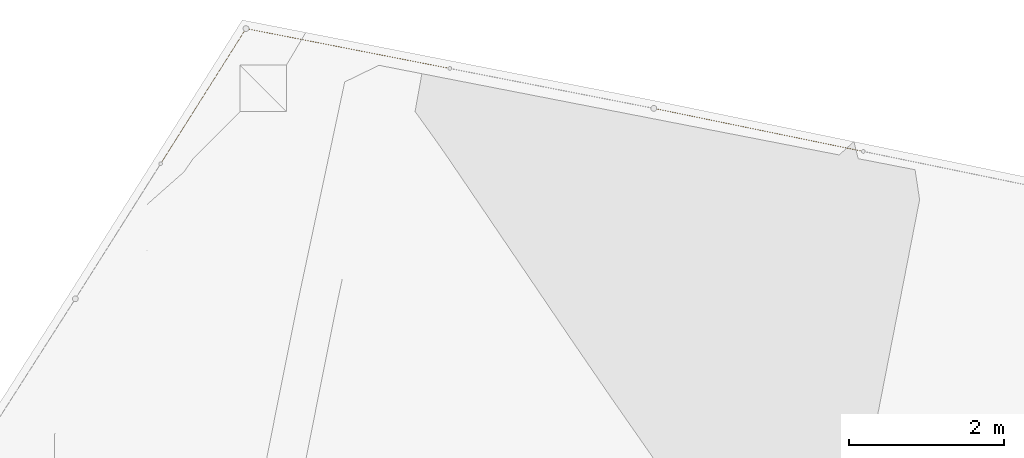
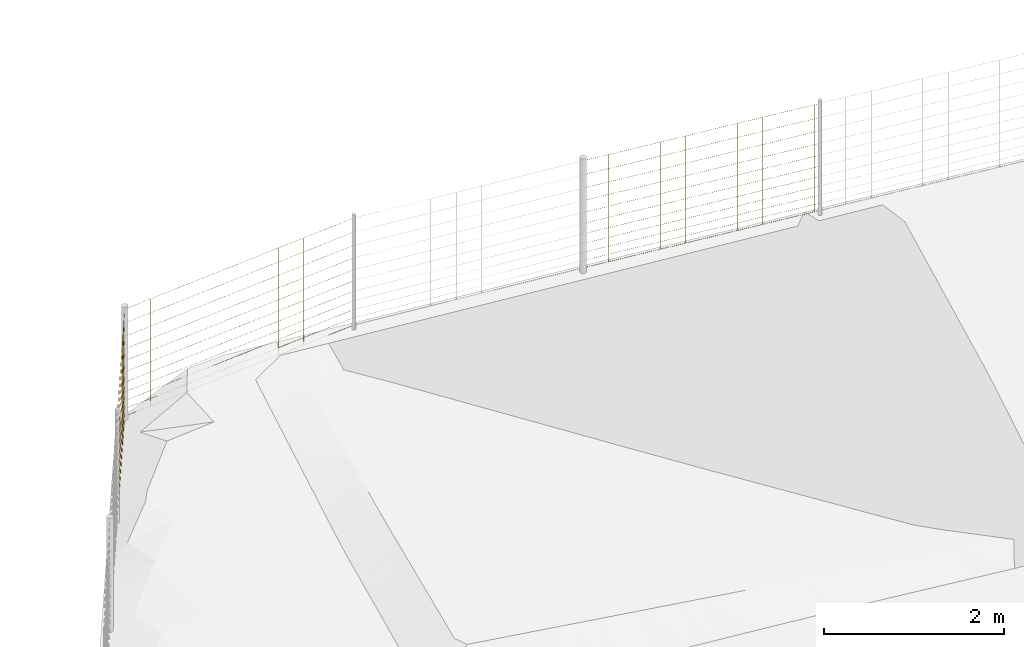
# Not in any storey, part 32 of 72: 3 railings.
"""IFC4 model written with IfcOpenShell, lengths in metres."""

import ifcopenshell
import ifcopenshell.guid

model = None  # the IFC model being written
_history = None  # IfcOwnerHistory: only IFC2X3 demands one
_inside = {}  # id of a spatial element -> (the spatial element, [elements in it])
_under = {}  # id of a project, library or spatial element -> (it, [spatial elements below it])
_declared = {}  # id of a project -> (the project, [libraries it declares])
_typed = {}  # id of a type object -> (the type object, [elements of that type])
_made_of = {}  # id of a material, layer set ... -> (it, [elements and type objects made of it])


def new_model(schema):
    """Start an empty IFC model of exactly this schema.

    Asked for "IFC4X3", IfcOpenShell would pick the latest addendum, in which some entities
    have other attributes; the version numbers below select the first issue.
    IFC2X3 requires an IfcOwnerHistory on every rooted entity: one is made here for all.
    """
    global model, _history
    if schema == "IFC4X3":
        model = ifcopenshell.file(schema_version=(4, 3, 0, 0))
    else:
        model = ifcopenshell.file(schema=schema)
    _inside.clear()
    _under.clear()
    _declared.clear()
    _typed.clear()
    _made_of.clear()
    _history = None
    if model.schema == "IFC2X3":
        org = make("IfcOrganization", Name="unknown")
        user = make(
            "IfcPersonAndOrganization",
            ThePerson=make("IfcPerson", FamilyName="unknown"),
            TheOrganization=org,
        )
        app = make(
            "IfcApplication",
            ApplicationDeveloper=org,
            Version="unknown",
            ApplicationFullName="unknown",
            ApplicationIdentifier="unknown",
        )
        _history = make(
            "IfcOwnerHistory",
            OwningUser=user,
            OwningApplication=app,
            ChangeAction="ADDED",
            CreationDate=0,
        )
    return model


def make(cls, **values):
    """One entity of the class cls with the attributes given. An attribute that is None is left unset."""
    return model.create_entity(
        cls, **{name: value for name, value in values.items() if value is not None}
    )


def rooted(cls, **values):
    """An entity with a GlobalId (a new one), such as an element, a storey or a relation."""
    return make(cls, GlobalId=ifcopenshell.guid.new(), OwnerHistory=_history, **values)


def si_unit(unit_type, name, prefix=None):
    """IfcSIUnit, for example si_unit("LENGTHUNIT", "METRE", prefix="MILLI")."""
    return make("IfcSIUnit", UnitType=unit_type, Prefix=prefix, Name=name)


def assignment(units):
    """IfcUnitAssignment: the units of a project."""
    return None if units is None else make("IfcUnitAssignment", Units=units)


def point(xyz):
    """IfcCartesianPoint."""
    return None if xyz is None else make("IfcCartesianPoint", Coordinates=xyz)


def direction(xyz):
    """IfcDirection."""
    return None if xyz is None else make("IfcDirection", DirectionRatios=xyz)


def frame(location, z_axis=None, x_axis=None):
    """IfcAxis2Placement3D, a coordinate frame: its origin and axes. An axis left out is left unset."""
    return make(
        "IfcAxis2Placement3D",
        Location=point(location),
        Axis=direction(z_axis),
        RefDirection=direction(x_axis),
    )


def origin_with_axes():
    """The frame at (0, 0, 0) with the z axis (0, 0, 1) and the x axis (1, 0, 0) written out."""
    return frame((0.0, 0.0, 0.0), z_axis=(0.0, 0.0, 1.0), x_axis=(1.0, 0.0, 0.0))


def place(relative_to, where):
    """IfcLocalPlacement: puts the frame where relative to a parent placement (None: the world)."""
    return make(
        "IfcLocalPlacement", PlacementRelTo=relative_to, RelativePlacement=where
    )


def context(
    kind, dimensions, precision=None, world=None, true_north=None, identifier=None
):
    """IfcGeometricRepresentationContext, for example the 3D "Model" context."""
    return make(
        "IfcGeometricRepresentationContext",
        ContextIdentifier=identifier,
        ContextType=kind,
        CoordinateSpaceDimension=dimensions,
        Precision=precision,
        WorldCoordinateSystem=world,
        TrueNorth=true_north,
    )


def subcontext(parent, identifier, kind, view, scale=None):
    """IfcGeometricRepresentationSubContext, for example "Body" below "Model"."""
    return make(
        "IfcGeometricRepresentationSubContext",
        ContextIdentifier=identifier,
        ContextType=kind,
        ParentContext=parent,
        TargetScale=scale,
        TargetView=view,
    )


def project(units=None, contexts=None):
    """IfcProject with its units and contexts."""
    return rooted(
        "IfcProject",
        Name="project",
        RepresentationContexts=contexts,
        UnitsInContext=assignment(units),
    )


def spatial(cls, under=None, at=None, **own):
    """A site, building, storey or space (cls), placed at a placement, below another one or the project."""
    s = rooted(cls, ObjectPlacement=at, **own)
    if under is not None:
        _under.setdefault(under.id(), (under, []))[1].append(s)
    return s


def point_list(points):
    """IfcCartesianPointList2D or 3D."""
    cls = (
        "IfcCartesianPointList2D" if len(points[0]) == 2 else "IfcCartesianPointList3D"
    )
    return make(cls, CoordList=points)


def polygons(points, faces, closed=None, point_numbers=None):
    """IfcPolygonalFaceSet: a face is its outer loop, then its inner loops; points numbered from 1."""
    made = []
    for loops in faces:
        if len(loops) == 1:
            made.append(make("IfcIndexedPolygonalFace", CoordIndex=loops[0]))
        else:
            made.append(
                make(
                    "IfcIndexedPolygonalFaceWithVoids",
                    CoordIndex=loops[0],
                    InnerCoordIndices=loops[1:],
                )
            )
    return make(
        "IfcPolygonalFaceSet",
        Coordinates=point_list(points),
        Closed=closed,
        Faces=made,
        PnIndex=point_numbers,
    )


def shape(context_of_items, identifier, shape_type, items):
    """IfcShapeRepresentation: the items that make up one representation, for example the "Body"."""
    return make(
        "IfcShapeRepresentation",
        ContextOfItems=context_of_items,
        RepresentationIdentifier=identifier,
        RepresentationType=shape_type,
        Items=items,
    )


def material(Name=None, Category=None):
    """IfcMaterial."""
    return make("IfcMaterial", Name=Name, Category=Category)


def made_of(thing, what):
    """Note that an element or type object is made of a material, layer set ...; save() writes the relation."""
    if what is not None:
        _made_of.setdefault(what.id(), (what, []))[1].append(thing)
    return thing


def element(
    cls,
    number,
    at=None,
    inside=None,
    cuts=None,
    type_object=None,
    material=None,
    context=None,
    identifier="Body",
    shape_type=None,
    held_by="IfcProductDefinitionShape",
    body=None,
    shapes=None,
    **own,
):
    """One element of the class cls, such as IfcWall. Its Tag is "e" and its number.

    at: its placement. inside: the storey or other place that contains it. cuts: it is an
    opening in that element (IfcRelVoidsElement). A single representation is given by context,
    identifier, shape_type and body (its items); several are given by shapes. held_by: the class
    of the entity that holds the representations. save() writes the other relations.
    """
    e = rooted(cls, Tag="e%d" % number, ObjectPlacement=at, **own)
    if body is not None:
        shapes = [shape(context, identifier, shape_type, body)]
    if shapes is not None:
        e.Representation = make(held_by, Representations=shapes)
    if inside is not None:
        _inside.setdefault(inside.id(), (inside, []))[1].append(e)
    if cuts is not None:
        rooted(
            "IfcRelVoidsElement", RelatingBuildingElement=cuts, RelatedOpeningElement=e
        )
    if type_object is not None:
        _typed.setdefault(type_object.id(), (type_object, []))[1].append(e)
    return made_of(e, material)


def aggregate(whole, parts):
    """IfcRelAggregates: a whole, such as a stair, and the parts it consists of."""
    return rooted("IfcRelAggregates", RelatingObject=whole, RelatedObjects=parts)


def save(model, path):
    """Write the relations noted so far, then the file.

    IfcRelAggregates (storeys below a building ...), IfcRelContainedInSpatialStructure (elements
    in a storey), IfcRelDefinesByType, IfcRelAssociatesMaterial and IfcRelDeclares: one each for
    every whole, place, type object, material and project.
    """
    for whole, parts in _under.values():
        aggregate(whole, parts)
    for where, things in _inside.values():
        rooted(
            "IfcRelContainedInSpatialStructure",
            RelatedElements=things,
            RelatingStructure=where,
        )
    for kind, things in _typed.values():
        rooted("IfcRelDefinesByType", RelatedObjects=things, RelatingType=kind)
    for what, things in _made_of.values():
        rooted("IfcRelAssociatesMaterial", RelatedObjects=things, RelatingMaterial=what)
    for by, libraries in _declared.values():
        rooted("IfcRelDeclares", RelatingContext=by, RelatedDefinitions=libraries)
    model.write(path)


model = new_model("IFC4")

# Units and contexts
model_context = context("Model", 3, precision=1e-05, world=origin_with_axes(), true_north=direction((0.0, 1.0)))
body_context = subcontext(model_context, "Body", "Model", "MODEL_VIEW")
ifc_project = project(units=[si_unit("AREAUNIT", "SQUARE_METRE"), si_unit("VOLUMEUNIT", "CUBIC_METRE"), si_unit("LENGTHUNIT", "METRE")], contexts=[model_context])

# Site
site_placement = place(None, origin_with_axes())
site = spatial("IfcSite", under=ifc_project, at=site_placement, Name="Lares · Rua das Mercês · artigo 4771")

# Railings
ifc_material = material(Name="Aço galvanizado / Stahl verzinkt", Category="steel")
railing_1_placement = place(site_placement, frame((0.0, 0.0, 0.0), z_axis=(0.0, 0.0, 1.0), x_axis=(1.0, -1.03767253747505e-17, 0.0)))
element("IfcRailing", 1, at=railing_1_placement, inside=site, material=ifc_material, Name="Vedação · rede ovelheira 1.050", ObjectType="SHEEP_WIRE_FENCE", PredefinedType="USERDEFINED", context=body_context, shape_type="Tessellation", body=[
    polygons([(-0.531027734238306, 22.7656995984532, 12.7352677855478), (-0.53231436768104, 22.7664714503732, 12.7337681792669), (-0.533564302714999, 22.767301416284, 12.7352677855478), (-0.532277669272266, 22.7665295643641, 12.7367673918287), (0.572765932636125, 24.5136188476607, 12.6878933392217), (0.571479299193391, 24.5143906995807, 12.6863937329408), (0.570229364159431, 24.5152206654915, 12.6878933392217), (0.571515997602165, 24.5144488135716, 12.6893929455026), (-0.531027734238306, 22.7656995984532, 12.8352677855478), (-0.53231436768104, 22.7664714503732, 12.8337681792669), (-0.533564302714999, 22.767301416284, 12.8352677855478), (-0.532277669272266, 22.7665295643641, 12.8367673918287), (0.572765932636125, 24.5136188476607, 12.7878933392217), (0.571479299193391, 24.5143906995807, 12.7863937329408), (0.570229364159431, 24.5152206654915, 12.7878933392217), (0.571515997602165, 24.5144488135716, 12.7893929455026), (-0.531027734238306, 22.7656995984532, 12.9452677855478), (-0.53231436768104, 22.7664714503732, 12.9437681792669), (-0.533564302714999, 22.767301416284, 12.9452677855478), (-0.532277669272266, 22.7665295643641, 12.9467673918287), (0.572765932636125, 24.5136188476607, 12.8978933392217), (0.571479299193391, 24.5143906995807, 12.8963937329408), (0.570229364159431, 24.5152206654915, 12.8978933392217), (0.571515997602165, 24.5144488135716, 12.8993929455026), (-0.531027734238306, 22.7656995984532, 13.0652677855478), (-0.53231436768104, 22.7664714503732, 13.0637681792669), (-0.533564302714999, 22.767301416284, 13.0652677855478), (-0.532277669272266, 22.7665295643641, 13.0667673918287), (0.572765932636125, 24.5136188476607, 13.0178933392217), (0.571479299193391, 24.5143906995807, 13.0163937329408), (0.570229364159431, 24.5152206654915, 13.0178933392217), (0.571515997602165, 24.5144488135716, 13.0193929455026), (-0.531027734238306, 22.7656995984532, 13.1952677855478), (-0.53231436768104, 22.7664714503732, 13.1937681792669), (-0.533564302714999, 22.767301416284, 13.1952677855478), (-0.532277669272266, 22.7665295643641, 13.1967673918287), (0.572765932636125, 24.5136188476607, 13.1478933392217), (0.571479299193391, 24.5143906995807, 13.1463937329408), (0.570229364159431, 24.5152206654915, 13.1478933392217), (0.571515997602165, 24.5144488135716, 13.1493929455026), (-0.531027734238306, 22.7656995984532, 13.3352677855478), (-0.53231436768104, 22.7664714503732, 13.3337681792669), (-0.533564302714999, 22.767301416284, 13.3352677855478), (-0.532277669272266, 22.7665295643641, 13.3367673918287), (0.572765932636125, 24.5136188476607, 13.2878933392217), (0.571479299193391, 24.5143906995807, 13.2863937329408), (0.570229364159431, 24.5152206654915, 13.2878933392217), (0.571515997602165, 24.5144488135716, 13.2893929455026), (-0.531027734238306, 22.7656995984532, 13.4852677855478), (-0.53231436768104, 22.7664714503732, 13.4837681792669), (-0.533564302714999, 22.767301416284, 13.4852677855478), (-0.532277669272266, 22.7665295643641, 13.4867673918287), (0.572765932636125, 24.5136188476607, 13.4378933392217), (0.571479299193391, 24.5143906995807, 13.4363937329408), (0.570229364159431, 24.5152206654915, 13.4378933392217), (0.571515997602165, 24.5144488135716, 13.4393929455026), (-0.531027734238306, 22.7656995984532, 13.6452677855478), (-0.53231436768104, 22.7664714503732, 13.6437681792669), (-0.533564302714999, 22.767301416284, 13.6452677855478), (-0.532277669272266, 22.7665295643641, 13.6467673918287), (0.572765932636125, 24.5136188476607, 13.5978933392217), (0.571479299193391, 24.5143906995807, 13.5963937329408), (0.570229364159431, 24.5152206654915, 13.5978933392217), (0.571515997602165, 24.5144488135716, 13.5993929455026), (-0.531027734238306, 22.7656995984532, 13.8152677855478), (-0.53231436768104, 22.7664714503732, 13.8137681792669), (-0.533564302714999, 22.767301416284, 13.8152677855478), (-0.532277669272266, 22.7665295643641, 13.8167673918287), (0.572765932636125, 24.5136188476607, 13.7678933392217), (0.571479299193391, 24.5143906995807, 13.7663937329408), (0.570229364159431, 24.5152206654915, 13.7678933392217), (0.571515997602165, 24.5144488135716, 13.7693929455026), (-0.531027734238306, 22.7656995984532, 13.9952677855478), (-0.53231436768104, 22.7664714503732, 13.9937681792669), (-0.533564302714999, 22.767301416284, 13.9952677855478), (-0.532277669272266, 22.7665295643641, 13.9967673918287), (0.572765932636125, 24.5136188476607, 13.9478933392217), (0.571479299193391, 24.5143906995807, 13.9463937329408), (0.570229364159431, 24.5152206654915, 13.9478933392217), (0.571515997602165, 24.5144488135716, 13.9493929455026), (-0.531027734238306, 22.7656995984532, 14.1852677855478), (-0.53231436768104, 22.7664714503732, 14.1837681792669), (-0.533564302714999, 22.767301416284, 14.1852677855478), (-0.532277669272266, 22.7665295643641, 14.1867673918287), (0.572765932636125, 24.5136188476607, 14.1378933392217), (0.571479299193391, 24.5143906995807, 14.1363937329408), (0.570229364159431, 24.5152206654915, 14.1378933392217), (0.571515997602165, 24.5144488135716, 14.1393929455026), (-0.372114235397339, 23.0216573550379, 12.7283928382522), (-0.373614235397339, 23.0201573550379, 12.7283928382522), (-0.372114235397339, 23.0186573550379, 12.7283928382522), (-0.370614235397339, 23.0201573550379, 12.7283928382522), (-0.372114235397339, 23.0216573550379, 14.1783928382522), (-0.373614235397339, 23.0201573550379, 14.1783928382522), (-0.372114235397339, 23.0186573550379, 14.1783928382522), (-0.370614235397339, 23.0201573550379, 14.1783928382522), (-0.211932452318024, 23.2753142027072, 12.7215178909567), (-0.213432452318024, 23.2738142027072, 12.7215178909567), (-0.211932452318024, 23.2723142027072, 12.7215178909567), (-0.210432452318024, 23.2738142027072, 12.7215178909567), (-0.211932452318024, 23.2753142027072, 14.1715178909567), (-0.213432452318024, 23.2738142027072, 14.1715178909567), (-0.211932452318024, 23.2723142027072, 14.1715178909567), (-0.210432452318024, 23.2738142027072, 14.1715178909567), (-0.0517506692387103, 23.5289710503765, 12.7146429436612), (-0.0532506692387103, 23.5274710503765, 12.7146429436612), (-0.0517506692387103, 23.5259710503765, 12.7146429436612), (-0.0502506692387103, 23.5274710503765, 12.7146429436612), (-0.0517506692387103, 23.5289710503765, 14.1646429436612), (-0.0532506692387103, 23.5274710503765, 14.1646429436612), (-0.0517506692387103, 23.5259710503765, 14.1646429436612), (-0.0502506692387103, 23.5274710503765, 14.1646429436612), (0.108431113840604, 23.7826278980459, 12.7077679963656), (0.106931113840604, 23.7811278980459, 12.7077679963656), (0.108431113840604, 23.7796278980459, 12.7077679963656), (0.109931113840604, 23.7811278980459, 12.7077679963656), (0.108431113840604, 23.7826278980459, 14.1577679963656), (0.106931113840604, 23.7811278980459, 14.1577679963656), (0.108431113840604, 23.7796278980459, 14.1577679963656), (0.109931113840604, 23.7811278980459, 14.1577679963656), (0.268612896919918, 24.0362847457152, 12.7008930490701), (0.267112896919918, 24.0347847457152, 12.7008930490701), (0.268612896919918, 24.0332847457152, 12.7008930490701), (0.270112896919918, 24.0347847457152, 12.7008930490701), (0.268612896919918, 24.0362847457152, 14.1508930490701), (0.267112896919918, 24.0347847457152, 14.1508930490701), (0.268612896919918, 24.0332847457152, 14.1508930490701), (0.270112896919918, 24.0347847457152, 14.1508930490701), (0.428794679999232, 24.2899415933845, 12.6940181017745), (0.427294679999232, 24.2884415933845, 12.6940181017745), (0.428794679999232, 24.2869415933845, 12.6940181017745), (0.430294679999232, 24.2884415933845, 12.6940181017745), (0.428794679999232, 24.2899415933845, 14.1440181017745), (0.427294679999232, 24.2884415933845, 14.1440181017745), (0.428794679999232, 24.2869415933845, 14.1440181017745), (0.430294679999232, 24.2884415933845, 14.1440181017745)], [[[4, 3, 2, 1]], [[5, 6, 7, 8]], [[1, 2, 6, 5]], [[2, 3, 7, 6]], [[3, 4, 8, 7]], [[4, 1, 5, 8]], [[12, 11, 10, 9]], [[13, 14, 15, 16]], [[9, 10, 14, 13]], [[10, 11, 15, 14]], [[11, 12, 16, 15]], [[12, 9, 13, 16]], [[20, 19, 18, 17]], [[21, 22, 23, 24]], [[17, 18, 22, 21]], [[18, 19, 23, 22]], [[19, 20, 24, 23]], [[20, 17, 21, 24]], [[28, 27, 26, 25]], [[29, 30, 31, 32]], [[25, 26, 30, 29]], [[26, 27, 31, 30]], [[27, 28, 32, 31]], [[28, 25, 29, 32]], [[36, 35, 34, 33]], [[37, 38, 39, 40]], [[33, 34, 38, 37]], [[34, 35, 39, 38]], [[35, 36, 40, 39]], [[36, 33, 37, 40]], [[44, 43, 42, 41]], [[45, 46, 47, 48]], [[41, 42, 46, 45]], [[42, 43, 47, 46]], [[43, 44, 48, 47]], [[44, 41, 45, 48]], [[52, 51, 50, 49]], [[53, 54, 55, 56]], [[49, 50, 54, 53]], [[50, 51, 55, 54]], [[51, 52, 56, 55]], [[52, 49, 53, 56]], [[60, 59, 58, 57]], [[61, 62, 63, 64]], [[57, 58, 62, 61]], [[58, 59, 63, 62]], [[59, 60, 64, 63]], [[60, 57, 61, 64]], [[68, 67, 66, 65]], [[69, 70, 71, 72]], [[65, 66, 70, 69]], [[66, 67, 71, 70]], [[67, 68, 72, 71]], [[68, 65, 69, 72]], [[76, 75, 74, 73]], [[77, 78, 79, 80]], [[73, 74, 78, 77]], [[74, 75, 79, 78]], [[75, 76, 80, 79]], [[76, 73, 77, 80]], [[84, 83, 82, 81]], [[85, 86, 87, 88]], [[81, 82, 86, 85]], [[82, 83, 87, 86]], [[83, 84, 88, 87]], [[84, 81, 85, 88]], [[92, 91, 90, 89]], [[93, 94, 95, 96]], [[89, 90, 94, 93]], [[90, 91, 95, 94]], [[91, 92, 96, 95]], [[92, 89, 93, 96]], [[100, 99, 98, 97]], [[101, 102, 103, 104]], [[97, 98, 102, 101]], [[98, 99, 103, 102]], [[99, 100, 104, 103]], [[100, 97, 101, 104]], [[108, 107, 106, 105]], [[109, 110, 111, 112]], [[105, 106, 110, 109]], [[106, 107, 111, 110]], [[107, 108, 112, 111]], [[108, 105, 109, 112]], [[116, 115, 114, 113]], [[117, 118, 119, 120]], [[113, 114, 118, 117]], [[114, 115, 119, 118]], [[115, 116, 120, 119]], [[116, 113, 117, 120]], [[124, 123, 122, 121]], [[125, 126, 127, 128]], [[121, 122, 126, 125]], [[122, 123, 127, 126]], [[123, 124, 128, 127]], [[124, 121, 125, 128]], [[132, 131, 130, 129]], [[133, 134, 135, 136]], [[129, 130, 134, 133]], [[130, 131, 135, 134]], [[131, 132, 136, 135]], [[132, 129, 133, 136]]]),
])
railing_2_placement = place(site_placement, frame((0.0, 0.0, 0.0), z_axis=(0.0, 0.0, 1.0), x_axis=(1.0, -1.03767253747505e-17, 0.0)))
element("IfcRailing", 2, at=railing_2_placement, inside=site, material=ifc_material, Name="Vedação · rede ovelheira 1.051", ObjectType="SHEEP_WIRE_FENCE", PredefinedType="USERDEFINED", context=body_context, shape_type="Tessellation", body=[
    polygons([(0.571209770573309, 24.5129476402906, 12.6878933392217), (0.57183080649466, 24.514354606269, 12.6864322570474), (0.571785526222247, 24.5158918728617, 12.6878933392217), (0.571164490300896, 24.5144849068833, 12.6893544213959), (3.20927694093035, 23.9970637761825, 13.3124327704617), (3.2098979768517, 23.9984707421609, 13.3109716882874), (3.20985269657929, 24.0000080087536, 13.3124327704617), (3.20923166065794, 23.9986010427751, 13.3138938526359), (0.571209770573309, 24.5129476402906, 12.7878933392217), (0.57183080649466, 24.514354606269, 12.7864322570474), (0.571785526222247, 24.5158918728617, 12.7878933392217), (0.571164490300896, 24.5144849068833, 12.7893544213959), (3.20927694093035, 23.9970637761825, 13.4124327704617), (3.2098979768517, 23.9984707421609, 13.4109716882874), (3.20985269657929, 24.0000080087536, 13.4124327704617), (3.20923166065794, 23.9986010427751, 13.4138938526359), (0.571209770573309, 24.5129476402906, 12.8978933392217), (0.57183080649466, 24.514354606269, 12.8964322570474), (0.571785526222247, 24.5158918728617, 12.8978933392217), (0.571164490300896, 24.5144849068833, 12.8993544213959), (3.20927694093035, 23.9970637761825, 13.5224327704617), (3.2098979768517, 23.9984707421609, 13.5209716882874), (3.20985269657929, 24.0000080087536, 13.5224327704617), (3.20923166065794, 23.9986010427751, 13.5238938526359), (0.571209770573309, 24.5129476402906, 13.0178933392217), (0.57183080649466, 24.514354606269, 13.0164322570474), (0.571785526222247, 24.5158918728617, 13.0178933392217), (0.571164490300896, 24.5144849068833, 13.0193544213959), (3.20927694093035, 23.9970637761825, 13.6424327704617), (3.2098979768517, 23.9984707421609, 13.6409716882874), (3.20985269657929, 24.0000080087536, 13.6424327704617), (3.20923166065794, 23.9986010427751, 13.6438938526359), (0.571209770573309, 24.5129476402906, 13.1478933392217), (0.57183080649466, 24.514354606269, 13.1464322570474), (0.571785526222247, 24.5158918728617, 13.1478933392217), (0.571164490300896, 24.5144849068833, 13.1493544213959), (3.20927694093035, 23.9970637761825, 13.7724327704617), (3.2098979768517, 23.9984707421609, 13.7709716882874), (3.20985269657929, 24.0000080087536, 13.7724327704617), (3.20923166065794, 23.9986010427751, 13.7738938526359), (0.571209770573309, 24.5129476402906, 13.2878933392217), (0.57183080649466, 24.514354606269, 13.2864322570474), (0.571785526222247, 24.5158918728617, 13.2878933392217), (0.571164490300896, 24.5144849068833, 13.2893544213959), (3.20927694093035, 23.9970637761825, 13.9124327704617), (3.2098979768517, 23.9984707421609, 13.9109716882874), (3.20985269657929, 24.0000080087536, 13.9124327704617), (3.20923166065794, 23.9986010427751, 13.9138938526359), (0.571209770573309, 24.5129476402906, 13.4378933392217), (0.57183080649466, 24.514354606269, 13.4364322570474), (0.571785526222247, 24.5158918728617, 13.4378933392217), (0.571164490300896, 24.5144849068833, 13.4393544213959), (3.20927694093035, 23.9970637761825, 14.0624327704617), (3.2098979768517, 23.9984707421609, 14.0609716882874), (3.20985269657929, 24.0000080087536, 14.0624327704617), (3.20923166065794, 23.9986010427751, 14.0638938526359), (0.571209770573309, 24.5129476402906, 13.5978933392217), (0.57183080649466, 24.514354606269, 13.5964322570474), (0.571785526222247, 24.5158918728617, 13.5978933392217), (0.571164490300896, 24.5144849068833, 13.5993544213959), (3.20927694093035, 23.9970637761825, 14.2224327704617), (3.2098979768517, 23.9984707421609, 14.2209716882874), (3.20985269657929, 24.0000080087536, 14.2224327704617), (3.20923166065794, 23.9986010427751, 14.2238938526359), (0.571209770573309, 24.5129476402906, 13.7678933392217), (0.57183080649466, 24.514354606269, 13.7664322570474), (0.571785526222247, 24.5158918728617, 13.7678933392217), (0.571164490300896, 24.5144849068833, 13.7693544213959), (3.20927694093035, 23.9970637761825, 14.3924327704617), (3.2098979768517, 23.9984707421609, 14.3909716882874), (3.20985269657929, 24.0000080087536, 14.3924327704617), (3.20923166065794, 23.9986010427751, 14.3938938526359), (0.571209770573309, 24.5129476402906, 13.9478933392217), (0.57183080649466, 24.514354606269, 13.9464322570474), (0.571785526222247, 24.5158918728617, 13.9478933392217), (0.571164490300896, 24.5144849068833, 13.9493544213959), (3.20927694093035, 23.9970637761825, 14.5724327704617), (3.2098979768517, 23.9984707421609, 14.5709716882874), (3.20985269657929, 24.0000080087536, 14.5724327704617), (3.20923166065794, 23.9986010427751, 14.5738938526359), (0.571209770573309, 24.5129476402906, 14.1378933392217), (0.57183080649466, 24.514354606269, 14.1364322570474), (0.571785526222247, 24.5158918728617, 14.1378933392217), (0.571164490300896, 24.5144849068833, 14.1393544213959), (3.20927694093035, 23.9970637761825, 14.7624327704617), (3.2098979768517, 23.9984707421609, 14.7609716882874), (3.20985269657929, 24.0000080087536, 14.7624327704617), (3.20923166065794, 23.9986010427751, 14.7638938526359), (0.865920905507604, 24.4583441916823, 12.7575954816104), (0.864420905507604, 24.4568441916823, 12.7575954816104), (0.865920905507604, 24.4553441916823, 12.7575954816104), (0.867420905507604, 24.4568441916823, 12.7575954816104), (0.865920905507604, 24.4583441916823, 14.2075954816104), (0.864420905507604, 24.4568441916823, 14.2075954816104), (0.865920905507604, 24.4553441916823, 14.2075954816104), (0.867420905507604, 24.4568441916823, 14.2075954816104), (1.16034416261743, 24.4007686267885, 12.8272976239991), (1.15884416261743, 24.3992686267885, 12.8272976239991), (1.16034416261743, 24.3977686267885, 12.8272976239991), (1.16184416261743, 24.3992686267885, 12.8272976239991), (1.16034416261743, 24.4007686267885, 14.2772976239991), (1.15884416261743, 24.3992686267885, 14.2772976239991), (1.16034416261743, 24.3977686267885, 14.2772976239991), (1.16184416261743, 24.3992686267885, 14.2772976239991), (1.45476741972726, 24.3431930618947, 12.8969997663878), (1.45326741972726, 24.3416930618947, 12.8969997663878), (1.45476741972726, 24.3401930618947, 12.8969997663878), (1.45626741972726, 24.3416930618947, 12.8969997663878), (1.45476741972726, 24.3431930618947, 14.3469997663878), (1.45326741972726, 24.3416930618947, 14.3469997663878), (1.45476741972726, 24.3401930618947, 14.3469997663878), (1.45626741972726, 24.3416930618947, 14.3469997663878), (1.74919067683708, 24.2856174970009, 12.9667019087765), (1.74769067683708, 24.2841174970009, 12.9667019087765), (1.74919067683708, 24.2826174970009, 12.9667019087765), (1.75069067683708, 24.2841174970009, 12.9667019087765), (1.74919067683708, 24.2856174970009, 14.4167019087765), (1.74769067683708, 24.2841174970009, 14.4167019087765), (1.74919067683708, 24.2826174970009, 14.4167019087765), (1.75069067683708, 24.2841174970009, 14.4167019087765), (2.04361393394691, 24.2280419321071, 13.0364040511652), (2.04211393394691, 24.2265419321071, 13.0364040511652), (2.04361393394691, 24.2250419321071, 13.0364040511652), (2.04511393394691, 24.2265419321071, 13.0364040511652), (2.04361393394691, 24.2280419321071, 14.4864040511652), (2.04211393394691, 24.2265419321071, 14.4864040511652), (2.04361393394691, 24.2250419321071, 14.4864040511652), (2.04511393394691, 24.2265419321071, 14.4864040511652), (2.33803719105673, 24.1704663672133, 13.1061061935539), (2.33653719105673, 24.1689663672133, 13.1061061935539), (2.33803719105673, 24.1674663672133, 13.1061061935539), (2.33953719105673, 24.1689663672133, 13.1061061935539), (2.33803719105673, 24.1704663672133, 14.5561061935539), (2.33653719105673, 24.1689663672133, 14.5561061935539), (2.33803719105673, 24.1674663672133, 14.5561061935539), (2.33953719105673, 24.1689663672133, 14.5561061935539), (2.63246044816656, 24.1128908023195, 13.1758083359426), (2.63096044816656, 24.1113908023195, 13.1758083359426), (2.63246044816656, 24.1098908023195, 13.1758083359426), (2.63396044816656, 24.1113908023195, 13.1758083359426), (2.63246044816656, 24.1128908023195, 14.6258083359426), (2.63096044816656, 24.1113908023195, 14.6258083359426), (2.63246044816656, 24.1098908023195, 14.6258083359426), (2.63396044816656, 24.1113908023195, 14.6258083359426), (2.92688370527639, 24.0553152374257, 13.2455104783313), (2.92538370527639, 24.0538152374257, 13.2455104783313), (2.92688370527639, 24.0523152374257, 13.2455104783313), (2.92838370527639, 24.0538152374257, 13.2455104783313), (2.92688370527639, 24.0553152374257, 14.6955104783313), (2.92538370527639, 24.0538152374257, 14.6955104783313), (2.92688370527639, 24.0523152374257, 14.6955104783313), (2.92838370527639, 24.0538152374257, 14.6955104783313)], [[[4, 3, 2, 1]], [[5, 6, 7, 8]], [[1, 2, 6, 5]], [[2, 3, 7, 6]], [[3, 4, 8, 7]], [[4, 1, 5, 8]], [[12, 11, 10, 9]], [[13, 14, 15, 16]], [[9, 10, 14, 13]], [[10, 11, 15, 14]], [[11, 12, 16, 15]], [[12, 9, 13, 16]], [[20, 19, 18, 17]], [[21, 22, 23, 24]], [[17, 18, 22, 21]], [[18, 19, 23, 22]], [[19, 20, 24, 23]], [[20, 17, 21, 24]], [[28, 27, 26, 25]], [[29, 30, 31, 32]], [[25, 26, 30, 29]], [[26, 27, 31, 30]], [[27, 28, 32, 31]], [[28, 25, 29, 32]], [[36, 35, 34, 33]], [[37, 38, 39, 40]], [[33, 34, 38, 37]], [[34, 35, 39, 38]], [[35, 36, 40, 39]], [[36, 33, 37, 40]], [[44, 43, 42, 41]], [[45, 46, 47, 48]], [[41, 42, 46, 45]], [[42, 43, 47, 46]], [[43, 44, 48, 47]], [[44, 41, 45, 48]], [[52, 51, 50, 49]], [[53, 54, 55, 56]], [[49, 50, 54, 53]], [[50, 51, 55, 54]], [[51, 52, 56, 55]], [[52, 49, 53, 56]], [[60, 59, 58, 57]], [[61, 62, 63, 64]], [[57, 58, 62, 61]], [[58, 59, 63, 62]], [[59, 60, 64, 63]], [[60, 57, 61, 64]], [[68, 67, 66, 65]], [[69, 70, 71, 72]], [[65, 66, 70, 69]], [[66, 67, 71, 70]], [[67, 68, 72, 71]], [[68, 65, 69, 72]], [[76, 75, 74, 73]], [[77, 78, 79, 80]], [[73, 74, 78, 77]], [[74, 75, 79, 78]], [[75, 76, 80, 79]], [[76, 73, 77, 80]], [[84, 83, 82, 81]], [[85, 86, 87, 88]], [[81, 82, 86, 85]], [[82, 83, 87, 86]], [[83, 84, 88, 87]], [[84, 81, 85, 88]], [[92, 91, 90, 89]], [[93, 94, 95, 96]], [[89, 90, 94, 93]], [[90, 91, 95, 94]], [[91, 92, 96, 95]], [[92, 89, 93, 96]], [[100, 99, 98, 97]], [[101, 102, 103, 104]], [[97, 98, 102, 101]], [[98, 99, 103, 102]], [[99, 100, 104, 103]], [[100, 97, 101, 104]], [[108, 107, 106, 105]], [[109, 110, 111, 112]], [[105, 106, 110, 109]], [[106, 107, 111, 110]], [[107, 108, 112, 111]], [[108, 105, 109, 112]], [[116, 115, 114, 113]], [[117, 118, 119, 120]], [[113, 114, 118, 117]], [[114, 115, 119, 118]], [[115, 116, 120, 119]], [[116, 113, 117, 120]], [[124, 123, 122, 121]], [[125, 126, 127, 128]], [[121, 122, 126, 125]], [[122, 123, 127, 126]], [[123, 124, 128, 127]], [[124, 121, 125, 128]], [[132, 131, 130, 129]], [[133, 134, 135, 136]], [[129, 130, 134, 133]], [[130, 131, 135, 134]], [[131, 132, 136, 135]], [[132, 129, 133, 136]], [[140, 139, 138, 137]], [[141, 142, 143, 144]], [[137, 138, 142, 141]], [[138, 139, 143, 142]], [[139, 140, 144, 143]], [[140, 137, 141, 144]], [[148, 147, 146, 145]], [[149, 150, 151, 152]], [[145, 146, 150, 149]], [[146, 147, 151, 150]], [[147, 148, 152, 151]], [[148, 145, 149, 152]]]),
])
railing_3_placement = place(site_placement, frame((0.0, 0.0, 0.0), z_axis=(0.0, 0.0, 1.0), x_axis=(1.0, -1.03767253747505e-17, 0.0)))
element("IfcRailing", 3, at=railing_3_placement, inside=site, material=ifc_material, Name="Vedação · rede ovelheira 1.053", ObjectType="SHEEP_WIRE_FENCE", PredefinedType="USERDEFINED", context=body_context, shape_type="Tessellation", body=[
    polygons([(5.84732984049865, 23.4811827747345, 13.4757158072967), (5.84771977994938, 23.482633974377, 13.4742184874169), (5.84793413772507, 23.4841212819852, 13.4757158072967), (5.84754419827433, 23.4826700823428, 13.4772131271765), (8.55881403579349, 22.9235723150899, 13.6414189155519), (8.55920397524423, 22.9250235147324, 13.6399215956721), (8.55941833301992, 22.9265108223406, 13.6414189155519), (8.55902839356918, 22.9250596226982, 13.6429162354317), (5.84732984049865, 23.4811827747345, 13.5757158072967), (5.84771977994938, 23.482633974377, 13.5742184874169), (5.84793413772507, 23.4841212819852, 13.5757158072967), (5.84754419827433, 23.4826700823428, 13.5772131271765), (8.55881403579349, 22.9235723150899, 13.7414189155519), (8.55920397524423, 22.9250235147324, 13.7399215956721), (8.55941833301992, 22.9265108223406, 13.7414189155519), (8.55902839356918, 22.9250596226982, 13.7429162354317), (5.84732984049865, 23.4811827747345, 13.6857158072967), (5.84771977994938, 23.482633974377, 13.6842184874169), (5.84793413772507, 23.4841212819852, 13.6857158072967), (5.84754419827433, 23.4826700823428, 13.6872131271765), (8.55881403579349, 22.9235723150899, 13.8514189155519), (8.55920397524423, 22.9250235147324, 13.8499215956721), (8.55941833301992, 22.9265108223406, 13.8514189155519), (8.55902839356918, 22.9250596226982, 13.8529162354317), (5.84732984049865, 23.4811827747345, 13.8057158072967), (5.84771977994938, 23.482633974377, 13.8042184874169), (5.84793413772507, 23.4841212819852, 13.8057158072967), (5.84754419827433, 23.4826700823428, 13.8072131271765), (8.55881403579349, 22.9235723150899, 13.9714189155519), (8.55920397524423, 22.9250235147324, 13.9699215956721), (8.55941833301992, 22.9265108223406, 13.9714189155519), (8.55902839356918, 22.9250596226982, 13.9729162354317), (5.84732984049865, 23.4811827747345, 13.9357158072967), (5.84771977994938, 23.482633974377, 13.9342184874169), (5.84793413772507, 23.4841212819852, 13.9357158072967), (5.84754419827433, 23.4826700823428, 13.9372131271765), (8.55881403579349, 22.9235723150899, 14.1014189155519), (8.55920397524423, 22.9250235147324, 14.0999215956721), (8.55941833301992, 22.9265108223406, 14.1014189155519), (8.55902839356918, 22.9250596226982, 14.1029162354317), (5.84732984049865, 23.4811827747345, 14.0757158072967), (5.84771977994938, 23.482633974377, 14.0742184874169), (5.84793413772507, 23.4841212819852, 14.0757158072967), (5.84754419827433, 23.4826700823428, 14.0772131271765), (8.55881403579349, 22.9235723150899, 14.2414189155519), (8.55920397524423, 22.9250235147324, 14.2399215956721), (8.55941833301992, 22.9265108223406, 14.2414189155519), (8.55902839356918, 22.9250596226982, 14.2429162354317), (5.84732984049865, 23.4811827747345, 14.2257158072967), (5.84771977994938, 23.482633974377, 14.2242184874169), (5.84793413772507, 23.4841212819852, 14.2257158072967), (5.84754419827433, 23.4826700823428, 14.2272131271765), (8.55881403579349, 22.9235723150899, 14.3914189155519), (8.55920397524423, 22.9250235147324, 14.3899215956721), (8.55941833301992, 22.9265108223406, 14.3914189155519), (8.55902839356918, 22.9250596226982, 14.3929162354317), (5.84732984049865, 23.4811827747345, 14.3857158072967), (5.84771977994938, 23.482633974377, 14.3842184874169), (5.84793413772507, 23.4841212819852, 14.3857158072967), (5.84754419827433, 23.4826700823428, 14.3872131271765), (8.55881403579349, 22.9235723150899, 14.5514189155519), (8.55920397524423, 22.9250235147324, 14.5499215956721), (8.55941833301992, 22.9265108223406, 14.5514189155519), (8.55902839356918, 22.9250596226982, 14.5529162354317), (5.84732984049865, 23.4811827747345, 14.5557158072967), (5.84771977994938, 23.482633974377, 14.5542184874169), (5.84793413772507, 23.4841212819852, 14.5557158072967), (5.84754419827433, 23.4826700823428, 14.5572131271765), (8.55881403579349, 22.9235723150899, 14.7214189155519), (8.55920397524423, 22.9250235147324, 14.7199215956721), (8.55941833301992, 22.9265108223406, 14.7214189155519), (8.55902839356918, 22.9250596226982, 14.7229162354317), (5.84732984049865, 23.4811827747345, 14.7357158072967), (5.84771977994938, 23.482633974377, 14.7342184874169), (5.84793413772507, 23.4841212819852, 14.7357158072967), (5.84754419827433, 23.4826700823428, 14.7372131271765), (8.55881403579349, 22.9235723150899, 14.9014189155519), (8.55920397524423, 22.9250235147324, 14.8999215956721), (8.55941833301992, 22.9265108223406, 14.9014189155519), (8.55902839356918, 22.9250596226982, 14.9029162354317), (5.84732984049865, 23.4811827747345, 14.9257158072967), (5.84771977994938, 23.482633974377, 14.9242184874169), (5.84793413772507, 23.4841212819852, 14.9257158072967), (5.84754419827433, 23.4826700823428, 14.9272131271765), (8.55881403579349, 22.9235723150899, 15.0914189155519), (8.55920397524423, 22.9250235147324, 15.0899215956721), (8.55941833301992, 22.9265108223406, 15.0914189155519), (8.55902839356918, 22.9250596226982, 15.0929162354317), (6.14148271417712, 23.4237223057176, 13.4936734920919), (6.13998271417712, 23.4222223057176, 13.4936734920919), (6.14148271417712, 23.4207223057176, 13.4936734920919), (6.14298271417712, 23.4222223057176, 13.4936734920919), (6.14148271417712, 23.4237223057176, 14.9436734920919), (6.13998271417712, 23.4222223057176, 14.9436734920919), (6.14148271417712, 23.4207223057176, 14.9436734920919), (6.14298271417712, 23.4222223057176, 14.9436734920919), (6.43533343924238, 23.3632925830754, 13.5116311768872), (6.43383343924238, 23.3617925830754, 13.5116311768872), (6.43533343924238, 23.3602925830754, 13.5116311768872), (6.43683343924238, 23.3617925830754, 13.5116311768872), (6.43533343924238, 23.3632925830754, 14.9616311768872), (6.43383343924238, 23.3617925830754, 14.9616311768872), (6.43533343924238, 23.3602925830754, 14.9616311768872), (6.43683343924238, 23.3617925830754, 14.9616311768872), (6.72918416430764, 23.3028628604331, 13.5295888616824), (6.72768416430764, 23.3013628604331, 13.5295888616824), (6.72918416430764, 23.2998628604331, 13.5295888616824), (6.73068416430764, 23.3013628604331, 13.5295888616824), (6.72918416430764, 23.3028628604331, 14.9795888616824), (6.72768416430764, 23.3013628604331, 14.9795888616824), (6.72918416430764, 23.2998628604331, 14.9795888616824), (6.73068416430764, 23.3013628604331, 14.9795888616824), (7.0230348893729, 23.2424331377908, 13.5475465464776), (7.0215348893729, 23.2409331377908, 13.5475465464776), (7.0230348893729, 23.2394331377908, 13.5475465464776), (7.0245348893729, 23.2409331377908, 13.5475465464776), (7.0230348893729, 23.2424331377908, 14.9975465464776), (7.0215348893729, 23.2409331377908, 14.9975465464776), (7.0230348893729, 23.2394331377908, 14.9975465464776), (7.0245348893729, 23.2409331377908, 14.9975465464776), (7.31688561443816, 23.1820034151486, 13.5655042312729), (7.31538561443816, 23.1805034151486, 13.5655042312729), (7.31688561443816, 23.1790034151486, 13.5655042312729), (7.31838561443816, 23.1805034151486, 13.5655042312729), (7.31688561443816, 23.1820034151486, 15.0155042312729), (7.31538561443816, 23.1805034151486, 15.0155042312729), (7.31688561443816, 23.1790034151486, 15.0155042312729), (7.31838561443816, 23.1805034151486, 15.0155042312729), (7.61073633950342, 23.1215736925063, 13.5834619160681), (7.60923633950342, 23.1200736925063, 13.5834619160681), (7.61073633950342, 23.1185736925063, 13.5834619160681), (7.61223633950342, 23.1200736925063, 13.5834619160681), (7.61073633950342, 23.1215736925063, 15.0334619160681), (7.60923633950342, 23.1200736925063, 15.0334619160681), (7.61073633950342, 23.1185736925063, 15.0334619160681), (7.61223633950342, 23.1200736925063, 15.0334619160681), (7.90458706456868, 23.0611439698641, 13.6014196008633), (7.90308706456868, 23.0596439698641, 13.6014196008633), (7.90458706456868, 23.0581439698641, 13.6014196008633), (7.90608706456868, 23.0596439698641, 13.6014196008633), (7.90458706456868, 23.0611439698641, 15.0514196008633), (7.90308706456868, 23.0596439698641, 15.0514196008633), (7.90458706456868, 23.0581439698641, 15.0514196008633), (7.90608706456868, 23.0596439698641, 15.0514196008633), (8.19843778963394, 23.0007142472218, 13.6193772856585), (8.19693778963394, 22.9992142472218, 13.6193772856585), (8.19843778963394, 22.9977142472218, 13.6193772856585), (8.19993778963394, 22.9992142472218, 13.6193772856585), (8.19843778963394, 23.0007142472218, 15.0693772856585), (8.19693778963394, 22.9992142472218, 15.0693772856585), (8.19843778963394, 22.9977142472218, 15.0693772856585), (8.19993778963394, 22.9992142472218, 15.0693772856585), (8.4922885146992, 22.9402845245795, 13.6373349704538), (8.4907885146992, 22.9387845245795, 13.6373349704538), (8.4922885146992, 22.9372845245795, 13.6373349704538), (8.4937885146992, 22.9387845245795, 13.6373349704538), (8.4922885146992, 22.9402845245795, 15.0873349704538), (8.4907885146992, 22.9387845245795, 15.0873349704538), (8.4922885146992, 22.9372845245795, 15.0873349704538), (8.4937885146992, 22.9387845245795, 15.0873349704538)], [[[4, 3, 2, 1]], [[5, 6, 7, 8]], [[1, 2, 6, 5]], [[2, 3, 7, 6]], [[3, 4, 8, 7]], [[4, 1, 5, 8]], [[12, 11, 10, 9]], [[13, 14, 15, 16]], [[9, 10, 14, 13]], [[10, 11, 15, 14]], [[11, 12, 16, 15]], [[12, 9, 13, 16]], [[20, 19, 18, 17]], [[21, 22, 23, 24]], [[17, 18, 22, 21]], [[18, 19, 23, 22]], [[19, 20, 24, 23]], [[20, 17, 21, 24]], [[28, 27, 26, 25]], [[29, 30, 31, 32]], [[25, 26, 30, 29]], [[26, 27, 31, 30]], [[27, 28, 32, 31]], [[28, 25, 29, 32]], [[36, 35, 34, 33]], [[37, 38, 39, 40]], [[33, 34, 38, 37]], [[34, 35, 39, 38]], [[35, 36, 40, 39]], [[36, 33, 37, 40]], [[44, 43, 42, 41]], [[45, 46, 47, 48]], [[41, 42, 46, 45]], [[42, 43, 47, 46]], [[43, 44, 48, 47]], [[44, 41, 45, 48]], [[52, 51, 50, 49]], [[53, 54, 55, 56]], [[49, 50, 54, 53]], [[50, 51, 55, 54]], [[51, 52, 56, 55]], [[52, 49, 53, 56]], [[60, 59, 58, 57]], [[61, 62, 63, 64]], [[57, 58, 62, 61]], [[58, 59, 63, 62]], [[59, 60, 64, 63]], [[60, 57, 61, 64]], [[68, 67, 66, 65]], [[69, 70, 71, 72]], [[65, 66, 70, 69]], [[66, 67, 71, 70]], [[67, 68, 72, 71]], [[68, 65, 69, 72]], [[76, 75, 74, 73]], [[77, 78, 79, 80]], [[73, 74, 78, 77]], [[74, 75, 79, 78]], [[75, 76, 80, 79]], [[76, 73, 77, 80]], [[84, 83, 82, 81]], [[85, 86, 87, 88]], [[81, 82, 86, 85]], [[82, 83, 87, 86]], [[83, 84, 88, 87]], [[84, 81, 85, 88]], [[92, 91, 90, 89]], [[93, 94, 95, 96]], [[89, 90, 94, 93]], [[90, 91, 95, 94]], [[91, 92, 96, 95]], [[92, 89, 93, 96]], [[100, 99, 98, 97]], [[101, 102, 103, 104]], [[97, 98, 102, 101]], [[98, 99, 103, 102]], [[99, 100, 104, 103]], [[100, 97, 101, 104]], [[108, 107, 106, 105]], [[109, 110, 111, 112]], [[105, 106, 110, 109]], [[106, 107, 111, 110]], [[107, 108, 112, 111]], [[108, 105, 109, 112]], [[116, 115, 114, 113]], [[117, 118, 119, 120]], [[113, 114, 118, 117]], [[114, 115, 119, 118]], [[115, 116, 120, 119]], [[116, 113, 117, 120]], [[124, 123, 122, 121]], [[125, 126, 127, 128]], [[121, 122, 126, 125]], [[122, 123, 127, 126]], [[123, 124, 128, 127]], [[124, 121, 125, 128]], [[132, 131, 130, 129]], [[133, 134, 135, 136]], [[129, 130, 134, 133]], [[130, 131, 135, 134]], [[131, 132, 136, 135]], [[132, 129, 133, 136]], [[140, 139, 138, 137]], [[141, 142, 143, 144]], [[137, 138, 142, 141]], [[138, 139, 143, 142]], [[139, 140, 144, 143]], [[140, 137, 141, 144]], [[148, 147, 146, 145]], [[149, 150, 151, 152]], [[145, 146, 150, 149]], [[146, 147, 151, 150]], [[147, 148, 152, 151]], [[148, 145, 149, 152]], [[156, 155, 154, 153]], [[157, 158, 159, 160]], [[153, 154, 158, 157]], [[154, 155, 159, 158]], [[155, 156, 160, 159]], [[156, 153, 157, 160]]]),
])

save(model, "model.ifc")
